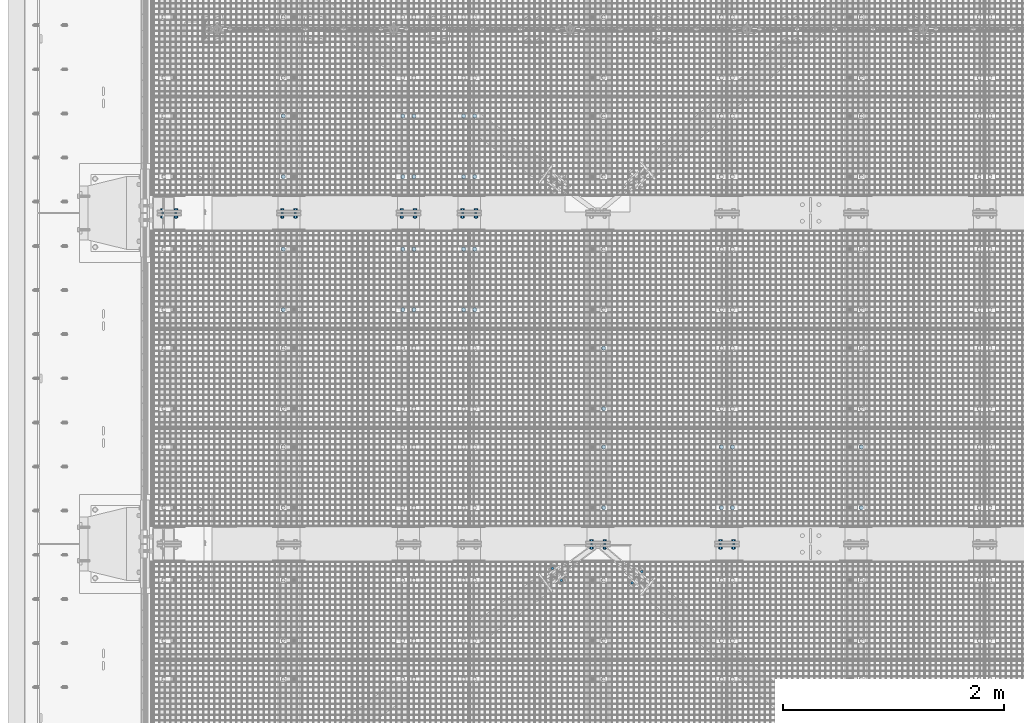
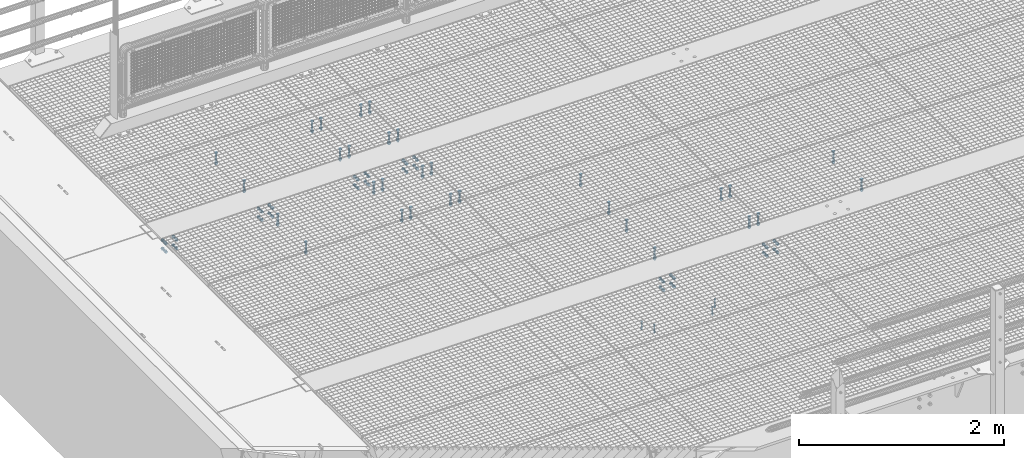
# One storey, part 14 of 1530: 23 mechanical fasteners.
"""IFC2X3 building model written with IfcOpenShell, lengths in millimetres."""

from ifc_helpers import new_model, si_unit, frame, origin_with_axes, place, context, subcontext, project, spatial, faceted_brep, source, transform, mapped, material, type_object, element, save


model = new_model("IFC2X3")

# Units and contexts
model_context = context("Model", 3, precision=1e-05, world=origin_with_axes())
body_context = subcontext(model_context, "Body", "Model", "MODEL_VIEW")
ifc_project = project(units=[si_unit("LENGTHUNIT", "METRE", prefix="MILLI"), si_unit("AREAUNIT", "SQUARE_METRE"), si_unit("VOLUMEUNIT", "CUBIC_METRE"), si_unit("MASSUNIT", "GRAM", prefix="KILO"), si_unit("TIMEUNIT", "SECOND"), si_unit("PLANEANGLEUNIT", "RADIAN"), si_unit("SOLIDANGLEUNIT", "STERADIAN"), si_unit("THERMODYNAMICTEMPERATUREUNIT", "DEGREE_CELSIUS"), si_unit("LUMINOUSINTENSITYUNIT", "LUMEN")], contexts=[model_context])

# Site, building, storey
site_placement = place(None, origin_with_axes())
site = spatial("IfcSite", under=ifc_project, at=site_placement, Name="Brattvåg", CompositionType="ELEMENT")
building_placement = place(site_placement, origin_with_axes())
building = spatial("IfcBuilding", under=site, at=building_placement, Name="Undefined", CompositionType="ELEMENT")
storey_placement = place(building_placement, origin_with_axes())
storey = spatial("IfcBuildingStorey", under=building, at=storey_placement, Name="Undefined", CompositionType="ELEMENT", Elevation=0.0)

# Mechanical fasteners
ifc_material = material(Name="8")
mechanical_fastener_type = type_object("IfcMechanicalFastenerType", Name="Bolt assembly")
shared_shape_1 = source(origin_with_axes(), body_context, "Body", "Brep", [
    faceted_brep([(10.3923048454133, -9.99999999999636, 0.0), (5.19615242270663, -9.99999999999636, 9.0), (-5.19615242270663, -9.99999999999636, 9.0), (-10.3923048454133, -9.99999999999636, 1.27269028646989e-15), (-5.19615242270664, -9.99999999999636, -9.0), (5.19615242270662, -9.99999999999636, -9.0), (5.19615242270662, -2.49999999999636, -9.0), (-5.19615242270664, -2.49999999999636, -9.0), (-10.3923048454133, -2.49999999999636, 1.27269028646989e-15), (-5.19615242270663, -2.49999999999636, 9.0), (5.19615242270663, -2.49999999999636, 9.0), (10.3923048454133, -2.49999999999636, 0.0), (6.0, -2.49999999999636, 0.0), (5.19615242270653, -2.49999999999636, 3.00000000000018), (2.99999999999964, -2.49999999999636, 5.19615242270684), (-6.21801588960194e-13, -2.49999999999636, 6.0), (-3.00000000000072, -2.49999999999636, 5.19615242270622), (-5.19615242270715, -2.49999999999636, 2.9999999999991), (-6.0, -2.49999999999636, -1.24360317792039e-12), (-5.19615242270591, -2.49999999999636, -3.00000000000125), (-2.99999999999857, -2.49999999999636, -5.19615242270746), (1.85874342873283e-12, -2.49999999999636, -6.0), (3.00000000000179, -2.49999999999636, -5.1961524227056), (5.19615242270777, -2.49999999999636, -2.99999999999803), (5.19615242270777, 97.4999999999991, -2.99999999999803), (3.00000000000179, 97.4999999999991, -5.1961524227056), (1.85874342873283e-12, 97.4999999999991, -6.0), (-2.99999999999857, 97.4999999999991, -5.19615242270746), (-5.19615242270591, 97.4999999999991, -3.00000000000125), (-6.0, 97.4999999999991, -1.24360317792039e-12), (-5.19615242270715, 97.4999999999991, 2.9999999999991), (-3.00000000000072, 97.4999999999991, 5.19615242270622), (-6.21801588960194e-13, 97.4999999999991, 6.0), (2.99999999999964, 97.4999999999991, 5.19615242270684), (5.19615242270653, 97.4999999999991, 3.00000000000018), (6.0, 97.4999999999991, 0.0), (12.0, -2.49999999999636, 0.0), (10.3923048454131, -2.49999999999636, 6.00000000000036), (5.99999999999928, -2.49999999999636, 10.3923048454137), (-1.24360317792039e-12, -2.49999999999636, 12.0), (-6.00000000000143, -2.49999999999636, 10.3923048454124), (-10.3923048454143, -2.49999999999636, 5.99999999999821), (-12.0, -2.49999999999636, -2.48720635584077e-12), (-10.3923048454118, -2.49999999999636, -6.00000000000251), (-5.99999999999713, -2.49999999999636, -10.3923048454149), (3.71748685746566e-12, -2.49999999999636, -12.0), (6.00000000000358, -2.49999999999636, -10.3923048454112), (10.3923048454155, -2.49999999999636, -5.99999999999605), (10.3923048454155, 3.63797880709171e-12, -5.99999999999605), (6.00000000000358, 3.63797880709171e-12, -10.3923048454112), (3.71748685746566e-12, 3.63797880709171e-12, -12.0), (-5.99999999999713, 3.63797880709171e-12, -10.3923048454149), (-10.3923048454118, 3.63797880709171e-12, -6.00000000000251), (-12.0, 3.63797880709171e-12, -2.48720635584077e-12), (-10.3923048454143, 3.63797880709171e-12, 5.99999999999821), (-6.00000000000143, 3.63797880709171e-12, 10.3923048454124), (-1.24360317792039e-12, 3.63797880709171e-12, 12.0), (5.99999999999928, 3.63797880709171e-12, 10.3923048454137), (10.3923048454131, 3.63797880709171e-12, 6.00000000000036), (12.0, 3.63797880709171e-12, 0.0), (12.0, 69.9999999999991, 0.0), (10.3923048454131, 69.9999999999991, 6.00000000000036), (5.99999999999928, 69.9999999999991, 10.3923048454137), (-1.24360317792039e-12, 69.9999999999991, 12.0), (-6.00000000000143, 69.9999999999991, 10.3923048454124), (-10.3923048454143, 69.9999999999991, 5.99999999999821), (-12.0, 69.9999999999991, -2.48720635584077e-12), (-10.3923048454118, 69.9999999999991, -6.00000000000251), (-5.99999999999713, 69.9999999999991, -10.3923048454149), (3.71748685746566e-12, 69.9999999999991, -12.0), (6.00000000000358, 69.9999999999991, -10.3923048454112), (10.3923048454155, 69.9999999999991, -5.99999999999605), (10.3923048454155, 72.4999999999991, -5.99999999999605), (6.00000000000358, 72.4999999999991, -10.3923048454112), (3.71748685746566e-12, 72.4999999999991, -12.0), (-5.99999999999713, 72.4999999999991, -10.3923048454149), (-10.3923048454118, 72.4999999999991, -6.00000000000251), (-12.0, 72.4999999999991, -2.48720635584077e-12), (-10.3923048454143, 72.4999999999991, 5.99999999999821), (-6.00000000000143, 72.4999999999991, 10.3923048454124), (-1.24360317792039e-12, 72.4999999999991, 12.0), (5.99999999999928, 72.4999999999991, 10.3923048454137), (10.3923048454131, 72.4999999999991, 6.00000000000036), (12.0, 72.4999999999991, 0.0), (10.3923048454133, 72.4999999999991, 0.0), (5.19615242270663, 72.4999999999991, 9.0), (-5.19615242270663, 72.4999999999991, 9.0), (-10.3923048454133, 72.4999999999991, 1.27269028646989e-15), (-5.19615242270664, 72.4999999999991, -9.0), (5.19615242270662, 72.4999999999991, -9.0), (5.19615242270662, 83.300000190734, -9.0), (-5.19615242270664, 83.300000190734, -9.0), (-10.3923048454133, 83.300000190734, 1.27269028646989e-15), (-5.19615242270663, 83.300000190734, 9.0), (5.19615242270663, 83.300000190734, 9.0), (10.3923048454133, 83.300000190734, 0.0), (9.0, 83.300000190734, 5.19615242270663), (6.36345143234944e-16, 83.300000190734, 10.3923048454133), (-9.0, 83.300000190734, 5.19615242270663), (-9.0, 83.300000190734, -5.19615242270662), (-1.11392563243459e-14, 83.300000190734, -10.3923048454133), (8.99999999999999, 83.300000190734, -5.19615242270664), (8.99999999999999, 94.1000003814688, -5.19615242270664), (-1.11392563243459e-14, 94.1000003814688, -10.3923048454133), (-9.0, 94.1000003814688, -5.19615242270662), (-9.0, 94.1000003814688, 5.19615242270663), (6.36345143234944e-16, 94.1000003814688, 10.3923048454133), (9.0, 94.1000003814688, 5.19615242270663)], [[[0, 1, 2, 3, 4, 5]], [[6, 7, 8, 9, 10, 11]], [[0, 11, 10, 1]], [[1, 10, 9, 2]], [[2, 9, 8, 3]], [[3, 8, 7, 4]], [[4, 7, 6, 5]], [[5, 6, 11, 0]], [[12, 13, 14, 15, 16, 17, 18, 19, 20, 21, 22, 23]], [[24, 25, 26, 27, 28, 29, 30, 31, 32, 33, 34, 35]], [[12, 35, 34, 13]], [[13, 34, 33, 14]], [[14, 33, 32, 15]], [[15, 32, 31, 16]], [[16, 31, 30, 17]], [[17, 30, 29, 18]], [[18, 29, 28, 19]], [[19, 28, 27, 20]], [[20, 27, 26, 21]], [[21, 26, 25, 22]], [[22, 25, 24, 23]], [[23, 24, 35, 12]], [[36, 37, 38, 39, 40, 41, 42, 43, 44, 45, 46, 47]], [[48, 49, 50, 51, 52, 53, 54, 55, 56, 57, 58, 59]], [[36, 59, 58, 37]], [[37, 58, 57, 38]], [[38, 57, 56, 39]], [[39, 56, 55, 40]], [[40, 55, 54, 41]], [[41, 54, 53, 42]], [[42, 53, 52, 43]], [[43, 52, 51, 44]], [[44, 51, 50, 45]], [[45, 50, 49, 46]], [[46, 49, 48, 47]], [[47, 48, 59, 36]], [[60, 61, 62, 63, 64, 65, 66, 67, 68, 69, 70, 71]], [[72, 73, 74, 75, 76, 77, 78, 79, 80, 81, 82, 83]], [[60, 83, 82, 61]], [[61, 82, 81, 62]], [[62, 81, 80, 63]], [[63, 80, 79, 64]], [[64, 79, 78, 65]], [[65, 78, 77, 66]], [[66, 77, 76, 67]], [[67, 76, 75, 68]], [[68, 75, 74, 69]], [[69, 74, 73, 70]], [[70, 73, 72, 71]], [[71, 72, 83, 60]], [[84, 85, 86, 87, 88, 89]], [[90, 91, 92, 93, 94, 95]], [[84, 95, 94, 85]], [[85, 94, 93, 86]], [[86, 93, 92, 87]], [[87, 92, 91, 88]], [[88, 91, 90, 89]], [[89, 90, 95, 84]], [[96, 97, 98, 99, 100, 101]], [[102, 103, 104, 105, 106, 107]], [[96, 107, 106, 97]], [[97, 106, 105, 98]], [[98, 105, 104, 99]], [[99, 104, 103, 100]], [[100, 103, 102, 101]], [[101, 102, 107, 96]]]),
    faceted_brep([(7.0, -9.09494701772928e-13, 0.0), (6.06217782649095, -9.09494701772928e-13, 3.50000000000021), (3.49999999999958, -9.09494701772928e-13, 6.06217782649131), (-7.25435187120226e-13, -9.09494701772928e-13, 7.0), (-3.50000000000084, -9.09494701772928e-13, 6.06217782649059), (-6.06217782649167, -9.09494701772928e-13, 3.49999999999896), (-7.0, -9.09494701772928e-13, -1.45087037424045e-12), (-6.06217782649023, -9.09494701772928e-13, -3.50000000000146), (-3.49999999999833, -9.09494701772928e-13, -6.06217782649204), (2.1685340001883e-12, -9.09494701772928e-13, -7.0), (3.50000000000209, -9.09494701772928e-13, -6.06217782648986), (6.0621778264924, -9.09494701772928e-13, -3.4999999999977), (6.0621778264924, 70.0999999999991, -3.4999999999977), (3.50000000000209, 70.0999999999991, -6.06217782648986), (2.1685340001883e-12, 70.0999999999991, -7.0), (-3.49999999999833, 70.0999999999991, -6.06217782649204), (-6.06217782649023, 70.0999999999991, -3.50000000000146), (-7.0, 70.0999999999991, -1.45087037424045e-12), (-6.06217782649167, 70.0999999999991, 3.49999999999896), (-3.50000000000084, 70.0999999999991, 6.06217782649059), (-7.25435187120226e-13, 70.0999999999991, 7.0), (3.49999999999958, 70.0999999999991, 6.06217782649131), (6.06217782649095, 70.0999999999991, 3.50000000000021), (7.0, 70.0999999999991, 0.0)], [[[0, 1, 2, 3, 4, 5, 6, 7, 8, 9, 10, 11]], [[12, 13, 14, 15, 16, 17, 18, 19, 20, 21, 22, 23]], [[0, 23, 22, 1]], [[1, 22, 21, 2]], [[2, 21, 20, 3]], [[3, 20, 19, 4]], [[4, 19, 18, 5]], [[5, 18, 17, 6]], [[6, 17, 16, 7]], [[7, 16, 15, 8]], [[8, 15, 14, 9]], [[9, 14, 13, 10]], [[10, 13, 12, 11]], [[11, 12, 23, 0]]]),
])
for number, where, z_axis, x_axis, name in (
    (1, (3660.31347335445, 2779.1340511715, -410.000000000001), (0.804538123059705, 0.593901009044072, 0.0), (0.59390100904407, -0.804538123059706, 0.0), "Bolt assembly"),
    (2, (4382.24808314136, 2646.58711811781, -410.000000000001), (-0.759623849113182, 0.650362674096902, 0.0), (0.650362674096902, 0.759623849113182, 0.0), "Bolt assembly"),
):
    element("IfcMechanicalFastener", number, at=place(storey_placement, frame(where, z_axis=z_axis, x_axis=x_axis)), inside=storey, type_object=mechanical_fastener_type, material=ifc_material, Name=name, NominalDiameter=12.0, NominalLength=100.0, context=body_context, shape_type="MappedRepresentation", body=[
        mapped(shared_shape_1, transform((0.0, 0.0, 0.0))),
        mapped(shared_shape_1, transform((136.0, 0.0, 0.0))),
    ])
shared_shape_2 = source(origin_with_axes(), body_context, "Body", "Brep", [
    faceted_brep([(17.3205080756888, -10.5, 0.0), (8.66025403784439, -10.5, 15.0), (-8.66025403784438, -10.5, 15.0), (-17.3205080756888, -10.5, 2.12115047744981e-15), (-8.66025403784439, -10.5, -15.0), (8.66025403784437, -10.5, -15.0), (8.66025403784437, 2.0, -15.0), (-8.66025403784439, 2.0, -15.0), (-17.3205080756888, 2.0, 2.12115047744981e-15), (-8.66025403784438, 2.0, 15.0), (8.66025403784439, 2.0, 15.0), (17.3205080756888, 2.0, 0.0), (10.0, 2.0, 0.0), (8.66025403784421, 2.0, 5.0000000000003), (4.9999999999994, 2.0, 8.66025403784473), (-1.03633598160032e-12, 2.0, 10.0), (-5.00000000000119, 2.0, 8.6602540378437), (-8.66025403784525, 2.0, 4.99999999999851), (-10.0, 2.0, -2.07267196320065e-12), (-8.66025403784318, 2.0, -5.00000000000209), (-4.99999999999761, 2.0, -8.66025403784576), (3.09790571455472e-12, 2.0, -10.0), (5.00000000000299, 2.0, -8.66025403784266), (8.66025403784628, 2.0, -4.99999999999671), (8.66025403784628, 142.0, -4.99999999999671), (5.00000000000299, 142.0, -8.66025403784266), (3.09790571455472e-12, 142.0, -10.0), (-4.99999999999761, 142.0, -8.66025403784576), (-8.66025403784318, 142.0, -5.00000000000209), (-10.0, 142.0, -2.07267196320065e-12), (-8.66025403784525, 142.0, 4.99999999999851), (-5.00000000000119, 142.0, 8.6602540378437), (-1.03633598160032e-12, 142.0, 10.0), (4.9999999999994, 142.0, 8.66025403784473), (8.66025403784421, 142.0, 5.0000000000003), (10.0, 142.0, 0.0), (18.5, 2.0, 0.0), (16.0214699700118, 2.0, 9.25000000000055), (9.2499999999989, 2.0, 16.0214699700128), (-1.9172215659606e-12, 2.0, 18.5), (-9.25000000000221, 2.0, 16.0214699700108), (-16.0214699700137, 2.0, 9.24999999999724), (-18.5, 2.0, -3.83444313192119e-12), (-16.0214699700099, 2.0, -9.25000000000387), (-9.24999999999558, 2.0, -16.0214699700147), (5.73112557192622e-12, 2.0, -18.5), (9.25000000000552, 2.0, -16.0214699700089), (16.0214699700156, 2.0, -9.24999999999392), (16.0214699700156, 5.0, -9.24999999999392), (9.25000000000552, 5.0, -16.0214699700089), (5.73112557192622e-12, 5.0, -18.5), (-9.24999999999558, 5.0, -16.0214699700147), (-16.0214699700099, 5.0, -9.25000000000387), (-18.5, 5.0, -3.83444313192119e-12), (-16.0214699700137, 5.0, 9.24999999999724), (-9.25000000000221, 5.0, 16.0214699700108), (-1.9172215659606e-12, 5.0, 18.5), (9.2499999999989, 5.0, 16.0214699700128), (16.0214699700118, 5.0, 9.25000000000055), (18.5, 5.0, 0.0), (18.5, 109.998931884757, 0.0), (16.0214699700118, 109.998931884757, 9.25000000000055), (9.2499999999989, 109.998931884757, 16.0214699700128), (-1.9172215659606e-12, 109.998931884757, 18.5), (-9.25000000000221, 109.998931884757, 16.0214699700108), (-16.0214699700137, 109.998931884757, 9.24999999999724), (-18.5, 109.998931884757, -3.83444313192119e-12), (-16.0214699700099, 109.998931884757, -9.25000000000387), (-9.24999999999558, 109.998931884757, -16.0214699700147), (5.73112557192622e-12, 109.998931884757, -18.5), (9.25000000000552, 109.998931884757, -16.0214699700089), (16.0214699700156, 109.998931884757, -9.24999999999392), (16.0214699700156, 112.998931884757, -9.24999999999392), (9.25000000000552, 112.998931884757, -16.0214699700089), (5.73112557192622e-12, 112.998931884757, -18.5), (-9.24999999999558, 112.998931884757, -16.0214699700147), (-16.0214699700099, 112.998931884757, -9.25000000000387), (-18.5, 112.998931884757, -3.83444313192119e-12), (-16.0214699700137, 112.998931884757, 9.24999999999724), (-9.25000000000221, 112.998931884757, 16.0214699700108), (-1.9172215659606e-12, 112.998931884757, 18.5), (9.2499999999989, 112.998931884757, 16.0214699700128), (16.0214699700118, 112.998931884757, 9.25000000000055), (18.5, 112.998931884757, 0.0), (17.3205080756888, 112.998931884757, 0.0), (8.66025403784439, 112.998931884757, 15.0), (-8.66025403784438, 112.998931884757, 15.0), (-17.3205080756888, 112.998931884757, 2.12115047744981e-15), (-8.66025403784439, 112.998931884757, -15.0), (8.66025403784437, 112.998931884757, -15.0), (8.66025403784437, 130.998931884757, -15.0), (-8.66025403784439, 130.998931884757, -15.0), (-17.3205080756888, 130.998931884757, 2.12115047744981e-15), (-8.66025403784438, 130.998931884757, 15.0), (8.66025403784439, 130.998931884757, 15.0), (17.3205080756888, 130.998931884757, 0.0)], [[[0, 1, 2, 3, 4, 5]], [[6, 7, 8, 9, 10, 11]], [[0, 11, 10, 1]], [[1, 10, 9, 2]], [[2, 9, 8, 3]], [[3, 8, 7, 4]], [[4, 7, 6, 5]], [[5, 6, 11, 0]], [[12, 13, 14, 15, 16, 17, 18, 19, 20, 21, 22, 23]], [[24, 25, 26, 27, 28, 29, 30, 31, 32, 33, 34, 35]], [[12, 35, 34, 13]], [[13, 34, 33, 14]], [[14, 33, 32, 15]], [[15, 32, 31, 16]], [[16, 31, 30, 17]], [[17, 30, 29, 18]], [[18, 29, 28, 19]], [[19, 28, 27, 20]], [[20, 27, 26, 21]], [[21, 26, 25, 22]], [[22, 25, 24, 23]], [[23, 24, 35, 12]], [[36, 37, 38, 39, 40, 41, 42, 43, 44, 45, 46, 47]], [[48, 49, 50, 51, 52, 53, 54, 55, 56, 57, 58, 59]], [[36, 59, 58, 37]], [[37, 58, 57, 38]], [[38, 57, 56, 39]], [[39, 56, 55, 40]], [[40, 55, 54, 41]], [[41, 54, 53, 42]], [[42, 53, 52, 43]], [[43, 52, 51, 44]], [[44, 51, 50, 45]], [[45, 50, 49, 46]], [[46, 49, 48, 47]], [[47, 48, 59, 36]], [[60, 61, 62, 63, 64, 65, 66, 67, 68, 69, 70, 71]], [[72, 73, 74, 75, 76, 77, 78, 79, 80, 81, 82, 83]], [[60, 83, 82, 61]], [[61, 82, 81, 62]], [[62, 81, 80, 63]], [[63, 80, 79, 64]], [[64, 79, 78, 65]], [[65, 78, 77, 66]], [[66, 77, 76, 67]], [[67, 76, 75, 68]], [[68, 75, 74, 69]], [[69, 74, 73, 70]], [[70, 73, 72, 71]], [[71, 72, 83, 60]], [[84, 85, 86, 87, 88, 89]], [[90, 91, 92, 93, 94, 95]], [[84, 95, 94, 85]], [[85, 94, 93, 86]], [[86, 93, 92, 87]], [[87, 92, 91, 88]], [[88, 91, 90, 89]], [[89, 90, 95, 84]]]),
])
for number, where, z_axis, x_axis, name in (
    (3, (2956.00477935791, 6327.91931152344, -25.0), (-1.0, 1.99999855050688e-09, 0.0), (0.0, 1.0, 0.0), "Bolt assembly"),
    (4, (2956.00477935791, 5121.91931152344, -25.0), (-1.0, 1.99999855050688e-09, 0.0), (0.0, 1.0, 0.0), "Bolt assembly"),
    (5, (4124.01192543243, 4224.99, -25.0), (-1.0, 1.99999855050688e-09, 0.0), (0.0, 1.0, 0.0), "Bolt assembly"),
    (6, (6460.01192543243, 3327.99, -25.0), (-1.0, 1.99999855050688e-09, 0.0), (0.0, 1.0, 0.0), "Bolt assembly"),
    (7, (5292.00477935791, 3327.91931152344, -25.0), (-1.0, 1.99999855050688e-09, 0.0), (0.0, 1.0, 0.0), "Bolt assembly"),
    (8, (5192.01487731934, 3327.9204864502, -25.0), (-1.0, 1.99999855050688e-09, 0.0), (0.0, 1.0, 0.0), "Bolt assembly"),
    (9, (4124.01192543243, 3327.99, -25.0), (-1.0, 1.99999855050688e-09, 0.0), (0.0, 1.0, 0.0), "Bolt assembly"),
    (10, (2856.01522064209, 6327.91931152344, -25.0), (-1.0, 1.99999855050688e-09, 0.0), (0.0, 1.0, 0.0), "Bolt assembly"),
    (11, (2405.00477935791, 6327.91931152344, -25.0), (-1.0, 1.99999855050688e-09, 0.0), (0.0, 1.0, 0.0), "Bolt assembly"),
    (12, (2856.01522064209, 5121.91931152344, -25.0), (-1.0, 1.99999855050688e-09, 0.0), (0.0, 1.0, 0.0), "Bolt assembly"),
    (13, (2405.00477935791, 5121.91931152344, -25.0), (-1.0, 1.99999855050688e-09, 0.0), (0.0, 1.0, 0.0), "Bolt assembly"),
    (14, (1221.01192543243, 6327.99, -25.0), (-1.0, 1.99999855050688e-09, 0.0), (0.0, 1.0, 0.0), "Bolt assembly"),
    (15, (2305.01487731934, 6327.9204864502, -25.0), (-1.0, 1.99999855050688e-09, 0.0), (0.0, 1.0, 0.0), "Bolt assembly"),
    (16, (1221.01192543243, 5121.99, -25.0), (-1.0, 1.99999855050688e-09, 0.0), (0.0, 1.0, 0.0), "Bolt assembly"),
    (17, (2305.01487731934, 5121.9204864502, -25.0), (-1.0, 1.99999855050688e-09, 0.0), (0.0, 1.0, 0.0), "Bolt assembly"),
):
    element("IfcMechanicalFastener", number, at=place(storey_placement, frame(where, z_axis=z_axis, x_axis=x_axis)), inside=storey, type_object=mechanical_fastener_type, material=ifc_material, Name=name, NominalDiameter=20.0, NominalLength=140.0, context=body_context, shape_type="MappedRepresentation", body=[
        mapped(shared_shape_2, transform((0.0, 0.0, 0.0))),
        mapped(shared_shape_2, transform((549.999999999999, 0.0, 0.0))),
    ])
shared_shape_3 = source(origin_with_axes(), body_context, "Body", "Brep", [
    faceted_brep([(17.3205080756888, -15.5000000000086, 0.0), (8.66025403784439, -15.5000000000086, 15.0), (-8.66025403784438, -15.5000000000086, 15.0), (-17.3205080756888, -15.5000000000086, 2.12115047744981e-15), (-8.66025403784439, -15.5000000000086, -15.0), (8.66025403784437, -15.5000000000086, -15.0), (8.66025403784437, -3.00000000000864, -15.0), (-8.66025403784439, -3.00000000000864, -15.0), (-17.3205080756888, -3.00000000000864, 2.12115047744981e-15), (-8.66025403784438, -3.00000000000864, 15.0), (8.66025403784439, -3.00000000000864, 15.0), (17.3205080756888, -3.00000000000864, 0.0), (10.0, -3.00000000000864, 0.0), (8.66025403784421, -3.00000000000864, 5.0000000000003), (4.9999999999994, -3.00000000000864, 8.66025403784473), (-1.03633598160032e-12, -3.00000000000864, 10.0), (-5.00000000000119, -3.00000000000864, 8.6602540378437), (-8.66025403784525, -3.00000000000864, 4.99999999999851), (-10.0, -3.00000000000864, -2.07267196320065e-12), (-8.66025403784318, -3.00000000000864, -5.00000000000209), (-4.99999999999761, -3.00000000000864, -8.66025403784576), (3.09790571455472e-12, -3.00000000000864, -10.0), (5.00000000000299, -3.00000000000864, -8.66025403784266), (8.66025403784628, -3.00000000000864, -4.99999999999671), (8.66025403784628, 72.0, -4.99999999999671), (5.00000000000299, 72.0, -8.66025403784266), (3.09790571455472e-12, 72.0, -10.0), (-4.99999999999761, 72.0, -8.66025403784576), (-8.66025403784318, 72.0, -5.00000000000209), (-10.0, 72.0, -2.07267196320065e-12), (-8.66025403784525, 72.0, 4.99999999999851), (-5.00000000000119, 72.0, 8.6602540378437), (-1.03633598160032e-12, 72.0, 10.0), (4.9999999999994, 72.0, 8.66025403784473), (8.66025403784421, 72.0, 5.0000000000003), (10.0, 72.0, 0.0), (18.5, -3.00000000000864, 0.0), (16.0214699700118, -3.00000000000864, 9.25000000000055), (9.2499999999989, -3.00000000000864, 16.0214699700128), (-1.9172215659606e-12, -3.00000000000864, 18.5), (-9.25000000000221, -3.00000000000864, 16.0214699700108), (-16.0214699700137, -3.00000000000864, 9.24999999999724), (-18.5, -3.00000000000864, -3.83444313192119e-12), (-16.0214699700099, -3.00000000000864, -9.25000000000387), (-9.24999999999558, -3.00000000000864, -16.0214699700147), (5.73112557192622e-12, -3.00000000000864, -18.5), (9.25000000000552, -3.00000000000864, -16.0214699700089), (16.0214699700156, -3.00000000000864, -9.24999999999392), (16.0214699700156, -8.64019966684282e-12, -9.24999999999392), (9.25000000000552, -8.64019966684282e-12, -16.0214699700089), (5.73112557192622e-12, -8.64019966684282e-12, -18.5), (-9.24999999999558, -8.64019966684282e-12, -16.0214699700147), (-16.0214699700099, -8.64019966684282e-12, -9.25000000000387), (-18.5, -8.64019966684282e-12, -3.83444313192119e-12), (-16.0214699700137, -8.64019966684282e-12, 9.24999999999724), (-9.25000000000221, -8.64019966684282e-12, 16.0214699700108), (-1.9172215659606e-12, -8.64019966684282e-12, 18.5), (9.2499999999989, -8.64019966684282e-12, 16.0214699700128), (16.0214699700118, -8.64019966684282e-12, 9.25000000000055), (18.5, -8.64019966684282e-12, 0.0), (18.5, 46.000061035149, 0.0), (16.0214699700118, 46.000061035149, 9.25000000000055), (9.2499999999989, 46.000061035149, 16.0214699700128), (-1.9172215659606e-12, 46.000061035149, 18.5), (-9.25000000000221, 46.000061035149, 16.0214699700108), (-16.0214699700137, 46.000061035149, 9.24999999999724), (-18.5, 46.000061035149, -3.83444313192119e-12), (-16.0214699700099, 46.000061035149, -9.25000000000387), (-9.24999999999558, 46.000061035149, -16.0214699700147), (5.73112557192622e-12, 46.000061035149, -18.5), (9.25000000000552, 46.000061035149, -16.0214699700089), (16.0214699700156, 46.000061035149, -9.24999999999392), (16.0214699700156, 49.000061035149, -9.24999999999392), (9.25000000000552, 49.000061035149, -16.0214699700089), (5.73112557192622e-12, 49.000061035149, -18.5), (-9.24999999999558, 49.000061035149, -16.0214699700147), (-16.0214699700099, 49.000061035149, -9.25000000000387), (-18.5, 49.000061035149, -3.83444313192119e-12), (-16.0214699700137, 49.000061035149, 9.24999999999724), (-9.25000000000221, 49.000061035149, 16.0214699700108), (-1.9172215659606e-12, 49.000061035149, 18.5), (9.2499999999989, 49.000061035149, 16.0214699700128), (16.0214699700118, 49.000061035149, 9.25000000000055), (18.5, 49.000061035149, 0.0), (17.3205080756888, 49.000061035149, 0.0), (8.66025403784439, 49.000061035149, 15.0), (-8.66025403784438, 49.000061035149, 15.0), (-17.3205080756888, 49.000061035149, 2.12115047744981e-15), (-8.66025403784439, 49.000061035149, -15.0), (8.66025403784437, 49.000061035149, -15.0), (8.66025403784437, 67.000061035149, -15.0), (-8.66025403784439, 67.000061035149, -15.0), (-17.3205080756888, 67.000061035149, 2.12115047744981e-15), (-8.66025403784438, 67.000061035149, 15.0), (8.66025403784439, 67.000061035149, 15.0), (17.3205080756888, 67.000061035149, 0.0)], [[[0, 1, 2, 3, 4, 5]], [[6, 7, 8, 9, 10, 11]], [[0, 11, 10, 1]], [[1, 10, 9, 2]], [[2, 9, 8, 3]], [[3, 8, 7, 4]], [[4, 7, 6, 5]], [[5, 6, 11, 0]], [[12, 13, 14, 15, 16, 17, 18, 19, 20, 21, 22, 23]], [[24, 25, 26, 27, 28, 29, 30, 31, 32, 33, 34, 35]], [[12, 35, 34, 13]], [[13, 34, 33, 14]], [[14, 33, 32, 15]], [[15, 32, 31, 16]], [[16, 31, 30, 17]], [[17, 30, 29, 18]], [[18, 29, 28, 19]], [[19, 28, 27, 20]], [[20, 27, 26, 21]], [[21, 26, 25, 22]], [[22, 25, 24, 23]], [[23, 24, 35, 12]], [[36, 37, 38, 39, 40, 41, 42, 43, 44, 45, 46, 47]], [[48, 49, 50, 51, 52, 53, 54, 55, 56, 57, 58, 59]], [[36, 59, 58, 37]], [[37, 58, 57, 38]], [[38, 57, 56, 39]], [[39, 56, 55, 40]], [[40, 55, 54, 41]], [[41, 54, 53, 42]], [[42, 53, 52, 43]], [[43, 52, 51, 44]], [[44, 51, 50, 45]], [[45, 50, 49, 46]], [[46, 49, 48, 47]], [[47, 48, 59, 36]], [[60, 61, 62, 63, 64, 65, 66, 67, 68, 69, 70, 71]], [[72, 73, 74, 75, 76, 77, 78, 79, 80, 81, 82, 83]], [[60, 83, 82, 61]], [[61, 82, 81, 62]], [[62, 81, 80, 63]], [[63, 80, 79, 64]], [[64, 79, 78, 65]], [[65, 78, 77, 66]], [[66, 77, 76, 67]], [[67, 76, 75, 68]], [[68, 75, 74, 69]], [[69, 74, 73, 70]], [[70, 73, 72, 71]], [[71, 72, 83, 60]], [[84, 85, 86, 87, 88, 89]], [[90, 91, 92, 93, 94, 95]], [[84, 95, 94, 85]], [[85, 94, 93, 86]], [[86, 93, 92, 87]], [[87, 92, 91, 88]], [[88, 91, 90, 89]], [[89, 90, 95, 84]]]),
    faceted_brep([(11.0, 0.1, 0.0), (9.52627944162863, 0.1, 5.50000000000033), (5.49999999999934, 0.1, 9.5262794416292), (-1.13996957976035e-12, 0.1, 11.0), (-5.50000000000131, 0.1, 9.52627944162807), (-9.52627944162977, 0.1, 5.49999999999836), (-11.0, 0.1, -2.27993915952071e-12), (-9.5262794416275, 0.1, -5.5000000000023), (-5.49999999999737, 0.1, -9.52627944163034), (3.40769628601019e-12, 0.1, -11.0), (5.50000000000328, 0.1, -9.52627944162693), (9.52627944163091, 0.1, -5.49999999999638), (9.52627944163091, 15.1, -5.49999999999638), (5.50000000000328, 15.1, -9.52627944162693), (3.40769628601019e-12, 15.1, -11.0), (-5.49999999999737, 15.1, -9.52627944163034), (-9.5262794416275, 15.1, -5.5000000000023), (-11.0, 15.1, -2.27993915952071e-12), (-9.52627944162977, 15.1, 5.49999999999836), (-5.50000000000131, 15.1, 9.52627944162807), (-1.13996957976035e-12, 15.1, 11.0), (5.49999999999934, 15.1, 9.5262794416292), (9.52627944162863, 15.1, 5.50000000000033), (11.0, 15.1, 0.0), (11.0, 15.0015563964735, 0.0), (9.52627944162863, 15.0015563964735, 5.50000000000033), (5.49999999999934, 15.0015563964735, 9.5262794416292), (-1.13996957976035e-12, 15.0015563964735, 11.0), (-5.50000000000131, 15.0015563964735, 9.52627944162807), (-9.52627944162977, 15.0015563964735, 5.49999999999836), (-11.0, 15.0015563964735, -2.27993915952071e-12), (-9.5262794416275, 15.0015563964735, -5.5000000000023), (-5.49999999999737, 15.0015563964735, -9.52627944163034), (3.40769628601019e-12, 15.0015563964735, -11.0), (5.50000000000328, 15.0015563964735, -9.52627944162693), (9.52627944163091, 15.0015563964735, -5.49999999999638), (9.52627944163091, 31.0015563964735, -5.49999999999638), (5.50000000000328, 31.0015563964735, -9.52627944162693), (3.40769628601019e-12, 31.0015563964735, -11.0), (-5.49999999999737, 31.0015563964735, -9.52627944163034), (-9.5262794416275, 31.0015563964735, -5.5000000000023), (-11.0, 31.0015563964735, -2.27993915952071e-12), (-9.52627944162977, 31.0015563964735, 5.49999999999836), (-5.50000000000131, 31.0015563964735, 9.52627944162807), (-1.13996957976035e-12, 31.0015563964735, 11.0), (5.49999999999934, 31.0015563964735, 9.5262794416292), (9.52627944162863, 31.0015563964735, 5.50000000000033), (11.0, 31.0015563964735, 0.0), (11.0, 30.900061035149, 0.0), (9.52627944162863, 30.900061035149, 5.50000000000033), (5.49999999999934, 30.900061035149, 9.5262794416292), (-1.13996957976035e-12, 30.900061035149, 11.0), (-5.50000000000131, 30.900061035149, 9.52627944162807), (-9.52627944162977, 30.900061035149, 5.49999999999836), (-11.0, 30.900061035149, -2.27993915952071e-12), (-9.5262794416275, 30.900061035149, -5.5000000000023), (-5.49999999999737, 30.900061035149, -9.52627944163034), (3.40769628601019e-12, 30.900061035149, -11.0), (5.50000000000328, 30.900061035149, -9.52627944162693), (9.52627944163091, 30.900061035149, -5.49999999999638), (9.52627944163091, 46.000061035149, -5.49999999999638), (5.50000000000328, 46.000061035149, -9.52627944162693), (3.40769628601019e-12, 46.000061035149, -11.0), (-5.49999999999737, 46.000061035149, -9.52627944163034), (-9.5262794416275, 46.000061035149, -5.5000000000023), (-11.0, 46.000061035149, -2.27993915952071e-12), (-9.52627944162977, 46.000061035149, 5.49999999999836), (-5.50000000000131, 46.000061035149, 9.52627944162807), (-1.13996957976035e-12, 46.000061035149, 11.0), (5.49999999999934, 46.000061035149, 9.5262794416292), (9.52627944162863, 46.000061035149, 5.50000000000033), (11.0, 46.000061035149, 0.0)], [[[0, 1, 2, 3, 4, 5, 6, 7, 8, 9, 10, 11]], [[12, 13, 14, 15, 16, 17, 18, 19, 20, 21, 22, 23]], [[0, 23, 22, 1]], [[1, 22, 21, 2]], [[2, 21, 20, 3]], [[3, 20, 19, 4]], [[4, 19, 18, 5]], [[5, 18, 17, 6]], [[6, 17, 16, 7]], [[7, 16, 15, 8]], [[8, 15, 14, 9]], [[9, 14, 13, 10]], [[10, 13, 12, 11]], [[11, 12, 23, 0]], [[24, 25, 26, 27, 28, 29, 30, 31, 32, 33, 34, 35]], [[36, 37, 38, 39, 40, 41, 42, 43, 44, 45, 46, 47]], [[24, 47, 46, 25]], [[25, 46, 45, 26]], [[26, 45, 44, 27]], [[27, 44, 43, 28]], [[28, 43, 42, 29]], [[29, 42, 41, 30]], [[30, 41, 40, 31]], [[31, 40, 39, 32]], [[32, 39, 38, 33]], [[33, 38, 37, 34]], [[34, 37, 36, 35]], [[35, 36, 47, 24]], [[48, 49, 50, 51, 52, 53, 54, 55, 56, 57, 58, 59]], [[60, 61, 62, 63, 64, 65, 66, 67, 68, 69, 70, 71]], [[48, 71, 70, 49]], [[49, 70, 69, 50]], [[50, 69, 68, 51]], [[51, 68, 67, 52]], [[52, 67, 66, 53]], [[53, 66, 65, 54]], [[54, 65, 64, 55]], [[55, 64, 63, 56]], [[56, 63, 62, 57]], [[57, 62, 61, 58]], [[58, 61, 60, 59]], [[59, 60, 71, 48]]]),
])
for number, where, z_axis, x_axis, name in (
    (18, (247.001968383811, 6023.00155639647, -219.998836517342), (0.0, 0.0, 1.0), (-1.0, 1.99999855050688e-09, 0.0), "Bolt assembly"),
    (19, (1331.00196838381, 6023.00155639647, -219.998836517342), (0.0, 0.0, 1.0), (-1.0, 1.99999855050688e-09, 0.0), "Bolt assembly"),
    (20, (2415.00196838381, 6023.00155639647, -219.998836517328), (0.0, 0.0, 1.0), (-1.0, 1.99999855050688e-09, 0.0), "Bolt assembly"),
    (21, (2966.00196838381, 6023.00155639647, -219.998836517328), (0.0, 0.0, 1.0), (-1.0, 1.99999855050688e-09, 0.0), "Bolt assembly"),
    (22, (5302.00196838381, 3023.00155639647, -219.998836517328), (0.0, 0.0, 1.0), (-1.0, 1.99999855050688e-09, 0.0), "Bolt assembly"),
    (23, (4134.00196838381, 3023.00155639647, -219.998836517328), (0.0, 0.0, 1.0), (-1.0, 1.99999855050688e-09, 0.0), "Bolt assembly"),
):
    element("IfcMechanicalFastener", number, at=place(storey_placement, frame(where, z_axis=z_axis, x_axis=x_axis)), inside=storey, type_object=mechanical_fastener_type, material=ifc_material, Name=name, NominalDiameter=20.0, NominalLength=75.0, context=body_context, shape_type="MappedRepresentation", body=[
        mapped(shared_shape_3, transform((0.0, 0.0, -50.0))),
        mapped(shared_shape_3, transform((120.0, 0.0, -50.0))),
        mapped(shared_shape_3, transform((0.0, 0.0, 50.0))),
        mapped(shared_shape_3, transform((120.0, 0.0, 50.0))),
    ])

save(model, "model.ifc")
